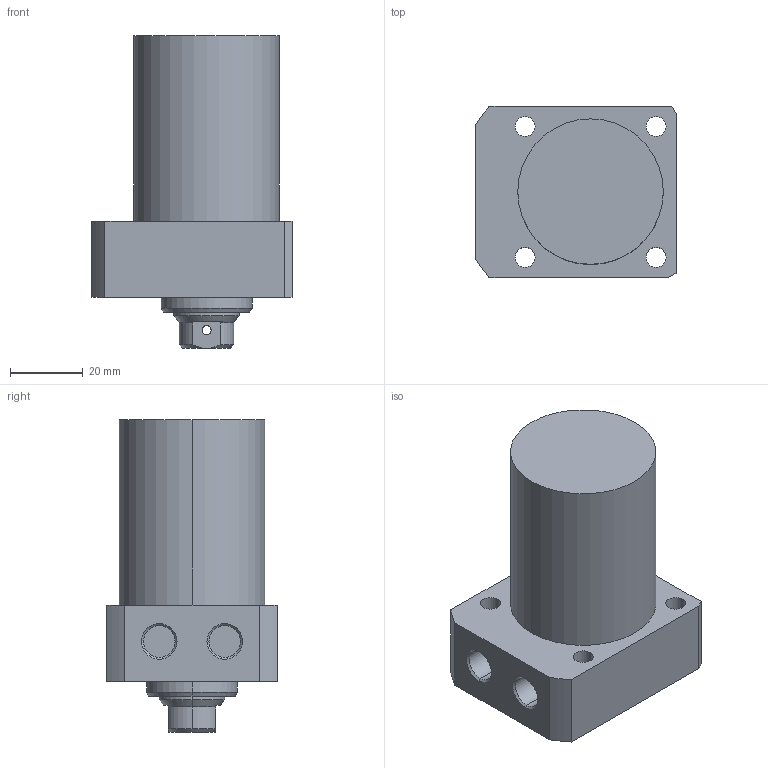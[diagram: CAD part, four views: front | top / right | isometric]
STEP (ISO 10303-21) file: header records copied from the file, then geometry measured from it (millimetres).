
FILE_DESCRIPTION (( 'STEP AP203' ), '1' );
FILE_NAME ('CLL-R040-CB-040.STEP', '2017-05-10T11:59:00', ( '' ), ( '' ), 'SwSTEP 2.0', 'SolidWorks 2015', '' );
FILE_SCHEMA (( 'CONFIG_CONTROL_DESIGN' ));
Length unit declared in the file: millimetre
Products named in the file (1): CLL-R040-CB-040
Bounding box: 55 x 47 x 86 mm (x, y, z)
Volume: 117122.8 mm3; surface area: 18902 mm2
Topology: 1 solids, 1 shells, 67 faces, 159 edges, 100 vertices
Faces by surface type: cylinder 33, plane 19, cone 15
Entity records: 2129 total; most frequent: CARTESIAN_POINT 441, DIRECTION 358, ORIENTED_EDGE 314, EDGE_CURVE 157, AXIS2_PLACEMENT_3D 145, VERTEX_POINT 100, EDGE_LOOP 87, CIRCLE 77
